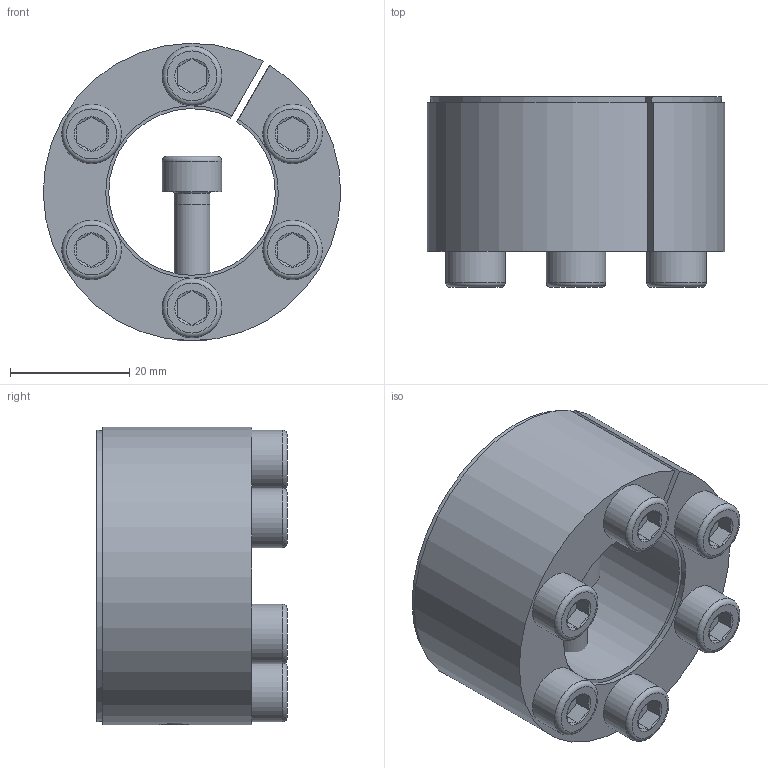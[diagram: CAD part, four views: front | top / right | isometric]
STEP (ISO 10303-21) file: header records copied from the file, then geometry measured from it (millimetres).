
FILE_DESCRIPTION( ( 'Unknown' ), '1' );
FILE_NAME( 'C:/Dokumente und Einstellungen/Sven/Desktop/homepage/cad - homepage/KBS61/KBS 61 - 28 x 50.stp', 'Unknown', ( 'Unknown' ), ( 'Unknown' ), 'XStep 1.0', 'Unknown', ' ' );
FILE_SCHEMA( ( 'automotive_design' ) );
Length unit declared in the file: millimetre
Products named in the file (3): Assem1; KBS 61 - 28 x 50; ISO EN DIN 4762 M6x25
Bounding box: 50 x 32 x 49.99 mm (x, y, z)
Volume: 68018.7 mm3; surface area: 30413.7 mm2
Topology: 9 solids, 9 shells, 207 faces, 397 edges, 236 vertices
Faces by surface type: plane 96, cone 53, cylinder 44, torus 14
Full cylindrical faces by diameter (mm): 5 x7, 6 x26, 10 x7
Entity records: 1282 total; most frequent: CARTESIAN_POINT 229, DIRECTION 196, ORIENTED_EDGE 142, AXIS2_PLACEMENT_3D 86, EDGE_CURVE 71, EDGE_LOOP 70, FACE_OUTER_BOUND 53, VERTEX_POINT 51
